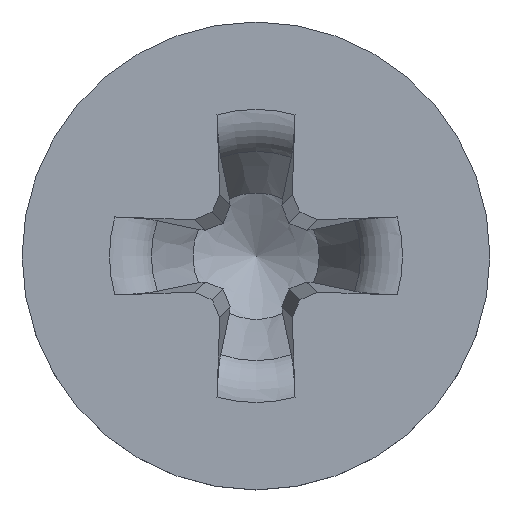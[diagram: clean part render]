
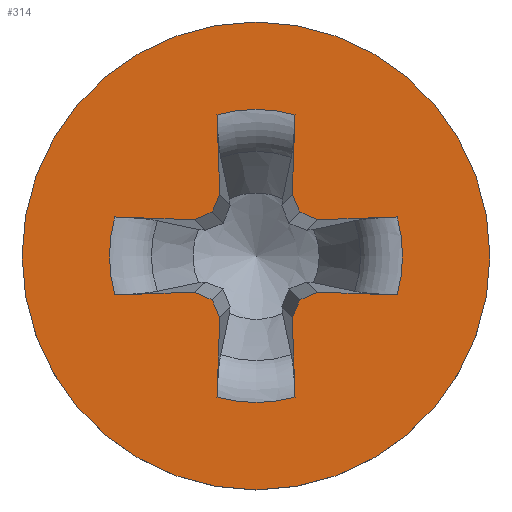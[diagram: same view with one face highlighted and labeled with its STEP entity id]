
A CAD part, top view. The second image highlights one B-rep face of the part: STEP entity #314.
In plain terms, the highlighted planar face has unit normal (0, 0, 1).
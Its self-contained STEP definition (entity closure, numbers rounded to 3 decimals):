
#95=PLANE('',#1580);
#113=LINE('',#4068,#198);
#114=LINE('',#4073,#199);
#115=LINE('',#4075,#200);
#116=LINE('',#4077,#201);
#117=LINE('',#4079,#202);
#118=LINE('',#4083,#203);
#119=LINE('',#4085,#204);
#120=LINE('',#4087,#205);
#121=LINE('',#4089,#206);
#122=LINE('',#4093,#207);
#123=LINE('',#4095,#208);
#124=LINE('',#4097,#209);
#125=LINE('',#4099,#210);
#126=LINE('',#4103,#211);
#127=LINE('',#4105,#212);
#128=LINE('',#4107,#213);
#198=VECTOR('',#1642,1.);
#199=VECTOR('',#1645,1.);
#200=VECTOR('',#1646,1.);
#201=VECTOR('',#1647,1.);
#202=VECTOR('',#1648,1.);
#203=VECTOR('',#1651,1.);
#204=VECTOR('',#1652,1.);
#205=VECTOR('',#1653,1.);
#206=VECTOR('',#1654,1.);
#207=VECTOR('',#1657,1.);
#208=VECTOR('',#1658,1.);
#209=VECTOR('',#1659,1.);
#210=VECTOR('',#1660,1.);
#211=VECTOR('',#1663,1.);
#212=VECTOR('',#1664,1.);
#213=VECTOR('',#1665,1.);
#291=FACE_BOUND('',#501,.T.);
#292=FACE_BOUND('',#502,.T.);
#314=ADVANCED_FACE('',(#291,#292),#95,.F.);
#501=EDGE_LOOP('',(#669));
#502=EDGE_LOOP('',(#670,#671,#672,#673,#674,#675,#676,#677,#678,#679,#680,
#681,#682,#683,#684,#685,#686,#687,#688,#689));
#602=CIRCLE('',#1575,1.5);
#603=CIRCLE('',#1576,0.94);
#604=CIRCLE('',#1577,0.94);
#605=CIRCLE('',#1578,0.94);
#606=CIRCLE('',#1579,0.94);
#669=ORIENTED_EDGE('',*,*,#1265,.T.);
#670=ORIENTED_EDGE('',*,*,#1266,.F.);
#671=ORIENTED_EDGE('',*,*,#1267,.T.);
#672=ORIENTED_EDGE('',*,*,#1268,.F.);
#673=ORIENTED_EDGE('',*,*,#1269,.F.);
#674=ORIENTED_EDGE('',*,*,#1270,.F.);
#675=ORIENTED_EDGE('',*,*,#1271,.F.);
#676=ORIENTED_EDGE('',*,*,#1272,.T.);
#677=ORIENTED_EDGE('',*,*,#1273,.F.);
#678=ORIENTED_EDGE('',*,*,#1274,.F.);
#679=ORIENTED_EDGE('',*,*,#1275,.F.);
#680=ORIENTED_EDGE('',*,*,#1276,.F.);
#681=ORIENTED_EDGE('',*,*,#1277,.T.);
#682=ORIENTED_EDGE('',*,*,#1278,.F.);
#683=ORIENTED_EDGE('',*,*,#1279,.F.);
#684=ORIENTED_EDGE('',*,*,#1280,.F.);
#685=ORIENTED_EDGE('',*,*,#1281,.F.);
#686=ORIENTED_EDGE('',*,*,#1282,.T.);
#687=ORIENTED_EDGE('',*,*,#1283,.F.);
#688=ORIENTED_EDGE('',*,*,#1284,.F.);
#689=ORIENTED_EDGE('',*,*,#1285,.F.);
#1121=VERTEX_POINT('',#4067);
#1122=VERTEX_POINT('',#4069);
#1123=VERTEX_POINT('',#4070);
#1124=VERTEX_POINT('',#4072);
#1125=VERTEX_POINT('',#4074);
#1126=VERTEX_POINT('',#4076);
#1127=VERTEX_POINT('',#4078);
#1128=VERTEX_POINT('',#4080);
#1129=VERTEX_POINT('',#4082);
#1130=VERTEX_POINT('',#4084);
#1131=VERTEX_POINT('',#4086);
#1132=VERTEX_POINT('',#4088);
#1133=VERTEX_POINT('',#4090);
#1134=VERTEX_POINT('',#4092);
#1135=VERTEX_POINT('',#4094);
#1136=VERTEX_POINT('',#4096);
#1137=VERTEX_POINT('',#4098);
#1138=VERTEX_POINT('',#4100);
#1139=VERTEX_POINT('',#4102);
#1140=VERTEX_POINT('',#4104);
#1141=VERTEX_POINT('',#4106);
#1265=EDGE_CURVE('',#1121,#1121,#602,.T.);
#1266=EDGE_CURVE('',#1122,#1123,#113,.T.);
#1267=EDGE_CURVE('',#1122,#1124,#603,.T.);
#1268=EDGE_CURVE('',#1125,#1124,#114,.T.);
#1269=EDGE_CURVE('',#1126,#1125,#115,.T.);
#1270=EDGE_CURVE('',#1127,#1126,#116,.T.);
#1271=EDGE_CURVE('',#1128,#1127,#117,.T.);
#1272=EDGE_CURVE('',#1128,#1129,#604,.T.);
#1273=EDGE_CURVE('',#1130,#1129,#118,.T.);
#1274=EDGE_CURVE('',#1131,#1130,#119,.T.);
#1275=EDGE_CURVE('',#1132,#1131,#120,.T.);
#1276=EDGE_CURVE('',#1133,#1132,#121,.T.);
#1277=EDGE_CURVE('',#1133,#1134,#605,.T.);
#1278=EDGE_CURVE('',#1135,#1134,#122,.T.);
#1279=EDGE_CURVE('',#1136,#1135,#123,.T.);
#1280=EDGE_CURVE('',#1137,#1136,#124,.T.);
#1281=EDGE_CURVE('',#1138,#1137,#125,.T.);
#1282=EDGE_CURVE('',#1138,#1139,#606,.T.);
#1283=EDGE_CURVE('',#1140,#1139,#126,.T.);
#1284=EDGE_CURVE('',#1141,#1140,#127,.T.);
#1285=EDGE_CURVE('',#1123,#1141,#128,.T.);
#1575=AXIS2_PLACEMENT_3D('',#4066,#1640,#1641);
#1576=AXIS2_PLACEMENT_3D('',#4071,#1643,#1644);
#1577=AXIS2_PLACEMENT_3D('',#4081,#1649,#1650);
#1578=AXIS2_PLACEMENT_3D('',#4091,#1655,#1656);
#1579=AXIS2_PLACEMENT_3D('',#4101,#1661,#1662);
#1580=AXIS2_PLACEMENT_3D('',#4108,#1666,#1667);
#1640=DIRECTION('',(0.,0.,1.));
#1641=DIRECTION('',(1.,0.,0.));
#1642=DIRECTION('',(-0.999,-0.035,0.));
#1643=DIRECTION('',(0.,0.,-1.));
#1644=DIRECTION('',(-1.,0.,0.));
#1645=DIRECTION('',(0.999,-0.035,0.));
#1646=DIRECTION('',(0.921,0.391,0.));
#1647=DIRECTION('',(0.391,0.921,0.));
#1648=DIRECTION('',(-0.035,0.999,0.));
#1649=DIRECTION('',(0.,0.,-1.));
#1650=DIRECTION('',(-1.,0.,0.));
#1651=DIRECTION('',(-0.035,-0.999,0.));
#1652=DIRECTION('',(0.391,-0.921,0.));
#1653=DIRECTION('',(0.921,-0.391,0.));
#1654=DIRECTION('',(0.999,0.035,0.));
#1655=DIRECTION('',(0.,0.,-1.));
#1656=DIRECTION('',(-1.,0.,0.));
#1657=DIRECTION('',(-0.999,0.035,0.));
#1658=DIRECTION('',(-0.921,-0.391,0.));
#1659=DIRECTION('',(-0.391,-0.921,0.));
#1660=DIRECTION('',(0.035,-0.999,0.));
#1661=DIRECTION('',(0.,0.,-1.));
#1662=DIRECTION('',(-1.,0.,0.));
#1663=DIRECTION('',(0.035,0.999,0.));
#1664=DIRECTION('',(-0.391,0.921,0.));
#1665=DIRECTION('',(-0.921,0.391,0.));
#1666=DIRECTION('',(0.,0.,-1.));
#1667=DIRECTION('',(-1.,0.,0.));
#4066=CARTESIAN_POINT('',(0.,0.,1.17));
#4067=CARTESIAN_POINT('',(1.5,0.,1.17));
#4068=CARTESIAN_POINT('',(0.045,0.22,1.17));
#4069=CARTESIAN_POINT('',(0.906,0.25,1.17));
#4070=CARTESIAN_POINT('',(0.396,0.232,1.17));
#4071=CARTESIAN_POINT('',(0.,0.,1.17));
#4072=CARTESIAN_POINT('',(0.906,-0.25,1.17));
#4073=CARTESIAN_POINT('',(-0.06,-0.216,1.17));
#4074=CARTESIAN_POINT('',(0.396,-0.232,1.17));
#4075=CARTESIAN_POINT('',(0.684,-0.11,1.17));
#4076=CARTESIAN_POINT('',(0.281,-0.281,1.17));
#4077=CARTESIAN_POINT('',(0.879,1.127,1.17));
#4078=CARTESIAN_POINT('',(0.232,-0.396,1.17));
#4079=CARTESIAN_POINT('',(0.166,1.506,1.17));
#4080=CARTESIAN_POINT('',(0.25,-0.906,1.17));
#4081=CARTESIAN_POINT('',(0.,0.,1.17));
#4082=CARTESIAN_POINT('',(-0.25,-0.906,1.17));
#4083=CARTESIAN_POINT('',(-0.166,1.506,1.17));
#4084=CARTESIAN_POINT('',(-0.232,-0.396,1.17));
#4085=CARTESIAN_POINT('',(-0.879,1.127,1.17));
#4086=CARTESIAN_POINT('',(-0.281,-0.281,1.17));
#4087=CARTESIAN_POINT('',(-0.684,-0.11,1.17));
#4088=CARTESIAN_POINT('',(-0.396,-0.232,1.17));
#4089=CARTESIAN_POINT('',(0.06,-0.216,1.17));
#4090=CARTESIAN_POINT('',(-0.906,-0.25,1.17));
#4091=CARTESIAN_POINT('',(0.,0.,1.17));
#4092=CARTESIAN_POINT('',(-0.906,0.25,1.17));
#4093=CARTESIAN_POINT('',(-0.045,0.22,1.17));
#4094=CARTESIAN_POINT('',(-0.396,0.232,1.17));
#4095=CARTESIAN_POINT('',(0.395,0.568,1.17));
#4096=CARTESIAN_POINT('',(-0.281,0.281,1.17));
#4097=CARTESIAN_POINT('',(0.2,1.415,1.17));
#4098=CARTESIAN_POINT('',(-0.232,0.396,1.17));
#4099=CARTESIAN_POINT('',(-0.27,1.491,1.17));
#4100=CARTESIAN_POINT('',(-0.25,0.906,1.17));
#4101=CARTESIAN_POINT('',(0.,0.,1.17));
#4102=CARTESIAN_POINT('',(0.25,0.906,1.17));
#4103=CARTESIAN_POINT('',(0.27,1.491,1.17));
#4104=CARTESIAN_POINT('',(0.232,0.396,1.17));
#4105=CARTESIAN_POINT('',(-0.2,1.415,1.17));
#4106=CARTESIAN_POINT('',(0.281,0.281,1.17));
#4107=CARTESIAN_POINT('',(-0.395,0.568,1.17));
#4108=CARTESIAN_POINT('',(0.,1.5,1.17));
